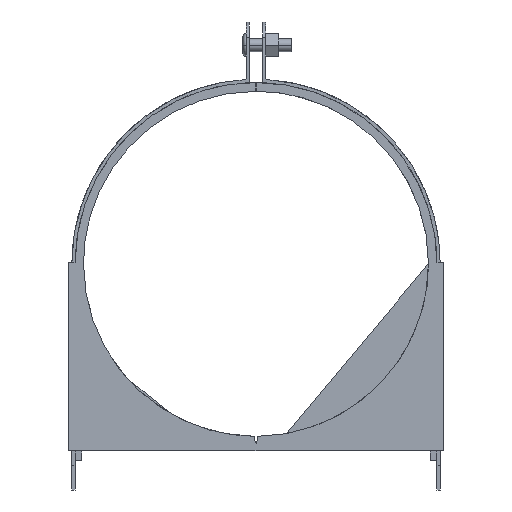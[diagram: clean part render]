
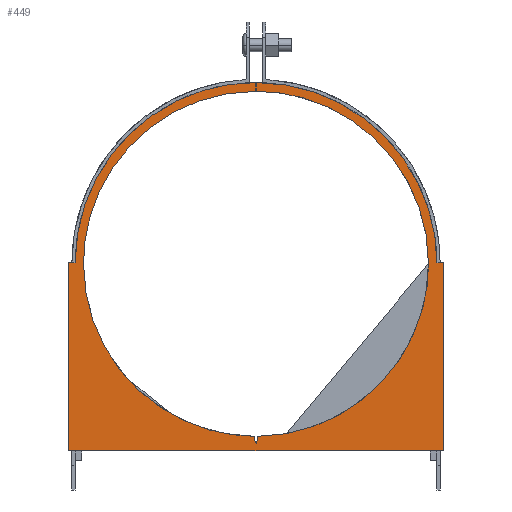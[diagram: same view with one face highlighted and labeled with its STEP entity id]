
A CAD part, front view. The second image highlights one B-rep face of the part: STEP entity #449.
In plain terms, the highlighted planar face has unit normal (0, -1, 0).
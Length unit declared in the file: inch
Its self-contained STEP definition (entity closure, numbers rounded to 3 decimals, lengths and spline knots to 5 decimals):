
#449=ADVANCED_FACE('',(#1175),#1176,.T.);
#1175=FACE_OUTER_BOUND('',#2311,.T.);
#1176=PLANE('',#2312);
#2311=EDGE_LOOP('',(#3991,#3992,#3993,#3994,#3995,#3996,#3997,#3998,#3999,#4000,#4001,#4002,#4003,#4004,#4005,#4006,#4007));
#2312=AXIS2_PLACEMENT_3D('',#4008,#4009,#4010);
#3991=ORIENTED_EDGE('',*,*,#5269,.F.);
#3992=ORIENTED_EDGE('',*,*,#5270,.F.);
#3993=ORIENTED_EDGE('',*,*,#5271,.F.);
#3994=ORIENTED_EDGE('',*,*,#5272,.F.);
#3995=ORIENTED_EDGE('',*,*,#5273,.F.);
#3996=ORIENTED_EDGE('',*,*,#5274,.F.);
#3997=ORIENTED_EDGE('',*,*,#5275,.F.);
#3998=ORIENTED_EDGE('',*,*,#5276,.F.);
#3999=ORIENTED_EDGE('',*,*,#5277,.F.);
#4000=ORIENTED_EDGE('',*,*,#5278,.F.);
#4001=ORIENTED_EDGE('',*,*,#5279,.F.);
#4002=ORIENTED_EDGE('',*,*,#5280,.F.);
#4003=ORIENTED_EDGE('',*,*,#5281,.F.);
#4004=ORIENTED_EDGE('',*,*,#5282,.F.);
#4005=ORIENTED_EDGE('',*,*,#5283,.F.);
#4006=ORIENTED_EDGE('',*,*,#5284,.F.);
#4007=ORIENTED_EDGE('',*,*,#5285,.F.);
#4008=CARTESIAN_POINT('',(3.53484,-0.125,4.02559));
#4009=DIRECTION('',(0.0,-1.0,0.0));
#4010=DIRECTION('',(1.0,0.0,0.0));
#5269=EDGE_CURVE('',#5691,#5692,#5693,.T.);
#5270=EDGE_CURVE('',#5694,#5691,#5695,.T.);
#5271=EDGE_CURVE('',#5696,#5694,#5697,.T.);
#5272=EDGE_CURVE('',#5698,#5696,#5699,.T.);
#5273=EDGE_CURVE('',#5700,#5698,#5701,.T.);
#5274=EDGE_CURVE('',#5702,#5700,#5703,.T.);
#5275=EDGE_CURVE('',#5704,#5702,#5705,.T.);
#5276=EDGE_CURVE('',#5706,#5704,#5707,.T.);
#5277=EDGE_CURVE('',#5708,#5706,#5709,.T.);
#5278=EDGE_CURVE('',#5710,#5708,#5711,.T.);
#5279=EDGE_CURVE('',#5712,#5710,#5713,.T.);
#5280=EDGE_CURVE('',#5714,#5712,#5715,.T.);
#5281=EDGE_CURVE('',#5716,#5714,#5717,.T.);
#5282=EDGE_CURVE('',#5718,#5716,#5719,.T.);
#5283=EDGE_CURVE('',#5720,#5718,#5721,.T.);
#5284=EDGE_CURVE('',#5722,#5720,#5723,.T.);
#5285=EDGE_CURVE('',#5692,#5722,#5724,.T.);
#5691=VERTEX_POINT('',#6322);
#5692=VERTEX_POINT('',#6323);
#5693=LINE('',#6324,#6325);
#5694=VERTEX_POINT('',#6326);
#5695=B_SPLINE_CURVE_WITH_KNOTS('',3,(#6327,#6328,#6329,#6330),.UNSPECIFIED.,.F.,.F.,(4,4),(0.0,1.0),.UNSPECIFIED.);
#5696=VERTEX_POINT('',#6331);
#5697=LINE('',#6332,#6333);
#5698=VERTEX_POINT('',#6334);
#5699=B_SPLINE_CURVE_WITH_KNOTS('',3,(#6335,#6336,#6337,#6338),.UNSPECIFIED.,.F.,.F.,(4,4),(0.0,1.0),.UNSPECIFIED.);
#5700=VERTEX_POINT('',#6339);
#5701=B_SPLINE_CURVE_WITH_KNOTS('',3,(#6340,#6341,#6342,#6343),.UNSPECIFIED.,.F.,.F.,(4,4),(0.0,1.0),.UNSPECIFIED.);
#5702=VERTEX_POINT('',#6344);
#5703=LINE('',#6345,#6346);
#5704=VERTEX_POINT('',#6347);
#5705=LINE('',#6348,#6349);
#5706=VERTEX_POINT('',#6350);
#5707=LINE('',#6351,#6352);
#5708=VERTEX_POINT('',#6353);
#5709=LINE('',#6354,#6355);
#5710=VERTEX_POINT('',#6356);
#5711=B_SPLINE_CURVE_WITH_KNOTS('',3,(#6357,#6358,#6359,#6360),.UNSPECIFIED.,.F.,.F.,(4,4),(0.0,1.0),.UNSPECIFIED.);
#5712=VERTEX_POINT('',#6361);
#5713=B_SPLINE_CURVE_WITH_KNOTS('',3,(#6362,#6363,#6364,#6365),.UNSPECIFIED.,.F.,.F.,(4,4),(0.0,1.0),.UNSPECIFIED.);
#5714=VERTEX_POINT('',#6366);
#5715=LINE('',#6367,#6368);
#5716=VERTEX_POINT('',#6369);
#5717=B_SPLINE_CURVE_WITH_KNOTS('',3,(#6370,#6371,#6372,#6373),.UNSPECIFIED.,.F.,.F.,(4,4),(0.0,1.0),.UNSPECIFIED.);
#5718=VERTEX_POINT('',#6374);
#5719=LINE('',#6375,#6376);
#5720=VERTEX_POINT('',#6377);
#5721=LINE('',#6378,#6379);
#5722=VERTEX_POINT('',#6380);
#5723=LINE('',#6381,#6382);
#5724=LINE('',#6383,#6384);
#6322=CARTESIAN_POINT('',(7.00661,-0.125,4.35767));
#6323=CARTESIAN_POINT('',(7.13179,-0.125,4.35778));
#6324=CARTESIAN_POINT('',(7.00661,-0.125,4.35767));
#6325=VECTOR('',#7129,1.0);
#6326=CARTESIAN_POINT('',(3.54036,-0.125,7.81817));
#6327=CARTESIAN_POINT('',(3.54036,-0.125,7.81817));
#6328=CARTESIAN_POINT('',(5.4492,-0.125,7.81502));
#6329=CARTESIAN_POINT('',(6.99693,-0.125,6.26501));
#6330=CARTESIAN_POINT('',(7.00661,-0.125,4.35767));
#6331=CARTESIAN_POINT('',(3.54056,-0.125,7.64983));
#6332=CARTESIAN_POINT('',(3.54056,-0.125,7.64983));
#6333=VECTOR('',#7130,1.0);
#6334=CARTESIAN_POINT('',(6.84483,-0.125,4.33977));
#6335=CARTESIAN_POINT('',(6.84483,-0.125,4.33977));
#6336=CARTESIAN_POINT('',(6.84483,-0.125,6.16592));
#6337=CARTESIAN_POINT('',(5.36599,-0.125,7.64673));
#6338=CARTESIAN_POINT('',(3.54056,-0.125,7.64983));
#6339=CARTESIAN_POINT('',(3.56245,-0.125,1.02995));
#6340=CARTESIAN_POINT('',(3.56245,-0.125,1.02995));
#6341=CARTESIAN_POINT('',(5.37781,-0.125,1.04477));
#6342=CARTESIAN_POINT('',(6.84483,-0.125,2.52089));
#6343=CARTESIAN_POINT('',(6.84483,-0.125,4.33977));
#6344=CARTESIAN_POINT('',(3.55146,-0.125,0.90282));
#6345=CARTESIAN_POINT('',(3.55146,-0.125,0.90282));
#6346=VECTOR('',#7131,1.0);
#6347=CARTESIAN_POINT('',(3.53504,-0.125,0.89836));
#6348=CARTESIAN_POINT('',(3.53504,-0.125,0.89836));
#6349=VECTOR('',#7132,1.);
#6350=CARTESIAN_POINT('',(3.52014,-0.125,0.90282));
#6351=CARTESIAN_POINT('',(3.52014,-0.125,0.90282));
#6352=VECTOR('',#7133,1.);
#6353=CARTESIAN_POINT('',(3.50578,-0.125,1.02997));
#6354=CARTESIAN_POINT('',(3.50578,-0.125,1.02997));
#6355=VECTOR('',#7134,1.0);
#6356=CARTESIAN_POINT('',(0.22483,-0.125,4.33977));
#6357=CARTESIAN_POINT('',(0.22483,-0.125,4.33977));
#6358=CARTESIAN_POINT('',(0.22483,-0.125,2.5214));
#6359=CARTESIAN_POINT('',(1.6911,-0.125,1.04556));
#6360=CARTESIAN_POINT('',(3.50578,-0.125,1.02997));
#6361=CARTESIAN_POINT('',(3.52922,-0.125,7.64983));
#6362=CARTESIAN_POINT('',(3.52922,-0.125,7.64983));
#6363=CARTESIAN_POINT('',(1.70374,-0.125,7.64679));
#6364=CARTESIAN_POINT('',(0.22483,-0.125,6.16595));
#6365=CARTESIAN_POINT('',(0.22483,-0.125,4.33977));
#6366=CARTESIAN_POINT('',(3.52904,-0.125,7.81817));
#6367=CARTESIAN_POINT('',(3.52904,-0.125,7.81817));
#6368=VECTOR('',#7135,1.);
#6369=CARTESIAN_POINT('',(0.06319,-0.125,4.35788));
#6370=CARTESIAN_POINT('',(0.06319,-0.125,4.35788));
#6371=CARTESIAN_POINT('',(0.07228,-0.125,6.26532));
#6372=CARTESIAN_POINT('',(1.62003,-0.125,7.81525));
#6373=CARTESIAN_POINT('',(3.52904,-0.125,7.81817));
#6374=CARTESIAN_POINT('',(-0.06198,-0.125,4.35778));
#6375=CARTESIAN_POINT('',(-0.06198,-0.125,4.35778));
#6376=VECTOR('',#7136,1.0);
#6377=CARTESIAN_POINT('',(-0.06198,-0.125,0.7503));
#6378=CARTESIAN_POINT('',(-0.06198,-0.125,0.7503));
#6379=VECTOR('',#7137,1.0);
#6380=CARTESIAN_POINT('',(7.13179,-0.125,0.7503));
#6381=CARTESIAN_POINT('',(7.13179,-0.125,0.7503));
#6382=VECTOR('',#7138,1.0);
#6383=CARTESIAN_POINT('',(7.13179,-0.125,4.35778));
#6384=VECTOR('',#7139,1.0);
#7129=DIRECTION('',(1.,0.0,0.001));
#7130=DIRECTION('',(-0.001,0.0,1.));
#7131=DIRECTION('',(0.086,0.0,0.996));
#7132=DIRECTION('',(0.965,0.0,0.262));
#7133=DIRECTION('',(0.958,0.0,-0.287));
#7134=DIRECTION('',(0.112,0.0,-0.994));
#7135=DIRECTION('',(0.001,0.0,-1.));
#7136=DIRECTION('',(1.,0.0,0.001));
#7137=DIRECTION('',(0.0,0.0,1.0));
#7138=DIRECTION('',(-1.0,0.0,0.0));
#7139=DIRECTION('',(0.0,0.0,-1.0));
